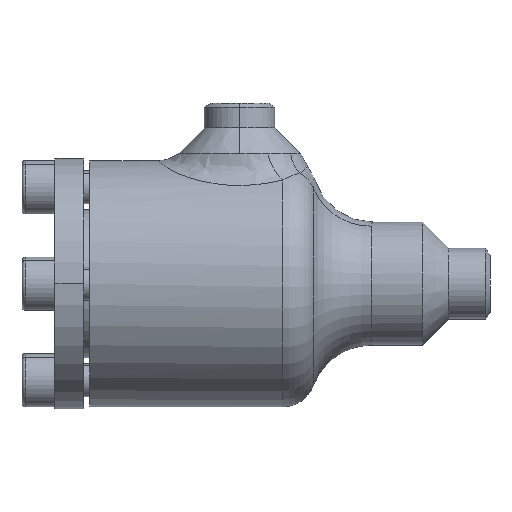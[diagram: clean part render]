
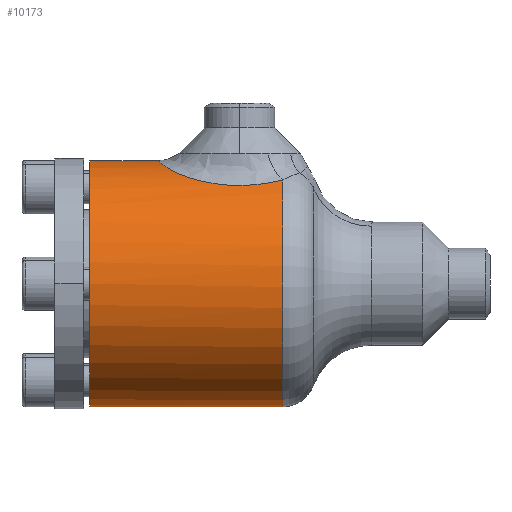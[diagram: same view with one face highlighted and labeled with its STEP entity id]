
A CAD part, left-side view. The second image highlights one B-rep face of the part: STEP entity #10173.
In plain terms, the highlighted cylindrical face has radius 30 mm (diameter 60 mm), a partial arc.
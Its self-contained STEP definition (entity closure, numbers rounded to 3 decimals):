
#252 = VERTEX_POINT ( 'NONE', #10040 ) ;
#281 = B_SPLINE_CURVE_WITH_KNOTS ( 'NONE', 3,
 ( #282, #283, #284, #285, #288, #289, #290, #291, #292, #293, #294, #295, #296, #297, #298, #299, #300, #301, #302, #303, #304, #305, #306, #307, #308, #309, #310, #311, #312, #313, #314, #315, #316, #317, #318, #319, #320, #321, #322, #323, #324, #325, #326, #327 ),
 .UNSPECIFIED., .F., .F.,
 ( 4, 2, 2, 2, 2, 2, 2, 2, 2, 2, 2, 2, 2, 2, 2, 2, 2, 2, 2, 2, 2, 4 ),
 ( 0., 0.003, 0.005, 0.007, 0.008, 0.011, 0.012, 0.013, 0.016, 0.018, 0.021, 0.024, 0.025, 0.026, 0.029, 0.03, 0.032, 0.034, 0.036, 0.037, 0.04, 0.042 ),
 .UNSPECIFIED. ) ;
#282 = CARTESIAN_POINT ( 'NONE',  ( -16.145, -47., 25.285 ) ) ;
#283 = CARTESIAN_POINT ( 'NONE',  ( -16.481, -46.204, 25.071 ) ) ;
#284 = CARTESIAN_POINT ( 'NONE',  ( -16.763, -45.389, 24.881 ) ) ;
#285 = CARTESIAN_POINT ( 'NONE',  ( -17.242, -43.726, 24.552 ) ) ;
#288 = CARTESIAN_POINT ( 'NONE',  ( -17.437, -42.877, 24.413 ) ) ;
#289 = CARTESIAN_POINT ( 'NONE',  ( -17.673, -41.581, 24.242 ) ) ;
#290 = CARTESIAN_POINT ( 'NONE',  ( -17.741, -41.144, 24.192 ) ) ;
#291 = CARTESIAN_POINT ( 'NONE',  ( -17.859, -40.271, 24.105 ) ) ;
#292 = CARTESIAN_POINT ( 'NONE',  ( -17.908, -39.833, 24.069 ) ) ;
#293 = CARTESIAN_POINT ( 'NONE',  ( -18.027, -38.518, 23.98 ) ) ;
#294 = CARTESIAN_POINT ( 'NONE',  ( -18.069, -37.639, 23.948 ) ) ;
#295 = CARTESIAN_POINT ( 'NONE',  ( -18.08, -36.316, 23.94 ) ) ;
#296 = CARTESIAN_POINT ( 'NONE',  ( -18.074, -35.875, 23.944 ) ) ;
#297 = CARTESIAN_POINT ( 'NONE',  ( -18.045, -34.99, 23.966 ) ) ;
#298 = CARTESIAN_POINT ( 'NONE',  ( -18.022, -34.546, 23.984 ) ) ;
#299 = CARTESIAN_POINT ( 'NONE',  ( -17.923, -33.223, 24.058 ) ) ;
#300 = CARTESIAN_POINT ( 'NONE',  ( -17.821, -32.35, 24.134 ) ) ;
#301 = CARTESIAN_POINT ( 'NONE',  ( -17.539, -30.622, 24.339 ) ) ;
#302 = CARTESIAN_POINT ( 'NONE',  ( -17.36, -29.767, 24.469 ) ) ;
#303 = CARTESIAN_POINT ( 'NONE',  ( -16.911, -28.077, 24.781 ) ) ;
#304 = CARTESIAN_POINT ( 'NONE',  ( -16.644, -27.252, 24.962 ) ) ;
#305 = CARTESIAN_POINT ( 'NONE',  ( -16.017, -25.658, 25.369 ) ) ;
#306 = CARTESIAN_POINT ( 'NONE',  ( -15.656, -24.886, 25.595 ) ) ;
#307 = CARTESIAN_POINT ( 'NONE',  ( -15.031, -23.772, 25.964 ) ) ;
#308 = CARTESIAN_POINT ( 'NONE',  ( -14.807, -23.407, 26.092 ) ) ;
#309 = CARTESIAN_POINT ( 'NONE',  ( -14.337, -22.705, 26.354 ) ) ;
#310 = CARTESIAN_POINT ( 'NONE',  ( -14.09, -22.367, 26.487 ) ) ;
#311 = CARTESIAN_POINT ( 'NONE',  ( -13.308, -21.389, 26.893 ) ) ;
#312 = CARTESIAN_POINT ( 'NONE',  ( -12.734, -20.788, 27.172 ) ) ;
#313 = CARTESIAN_POINT ( 'NONE',  ( -11.783, -19.968, 27.591 ) ) ;
#314 = CARTESIAN_POINT ( 'NONE',  ( -11.449, -19.707, 27.732 ) ) ;
#315 = CARTESIAN_POINT ( 'NONE',  ( -10.758, -19.22, 28.007 ) ) ;
#316 = CARTESIAN_POINT ( 'NONE',  ( -10.403, -18.995, 28.141 ) ) ;
#317 = CARTESIAN_POINT ( 'NONE',  ( -9.306, -18.374, 28.531 ) ) ;
#318 = CARTESIAN_POINT ( 'NONE',  ( -8.536, -18.031, 28.772 ) ) ;
#319 = CARTESIAN_POINT ( 'NONE',  ( -7.322, -17.613, 29.096 ) ) ;
#320 = CARTESIAN_POINT ( 'NONE',  ( -6.906, -17.489, 29.197 ) ) ;
#321 = CARTESIAN_POINT ( 'NONE',  ( -6.064, -17.275, 29.384 ) ) ;
#322 = CARTESIAN_POINT ( 'NONE',  ( -5.64, -17.184, 29.468 ) ) ;
#323 = CARTESIAN_POINT ( 'NONE',  ( -4.362, -16.953, 29.694 ) ) ;
#324 = CARTESIAN_POINT ( 'NONE',  ( -3.501, -16.853, 29.808 ) ) ;
#325 = CARTESIAN_POINT ( 'NONE',  ( -1.762, -16.728, 29.961 ) ) ;
#326 = CARTESIAN_POINT ( 'NONE',  ( -0.884, -16.7, 30. ) ) ;
#327 = CARTESIAN_POINT ( 'NONE',  ( 0., -16.7, 30. ) ) ;
#447 = CARTESIAN_POINT ( 'NONE',  ( 0., -16.7, 30. ) ) ;
#537 = LINE ( 'NONE', #538, #539 ) ;
#538 = CARTESIAN_POINT ( 'NONE',  ( 0., -55., -30. ) ) ;
#539 = VECTOR ( 'NONE', #540, 1000. ) ;
#540 = DIRECTION ( 'NONE',  ( 0., 1., 0. ) ) ;
#656 = LINE ( 'NONE', #657, #658 ) ;
#657 = CARTESIAN_POINT ( 'NONE',  ( 0., -55., 30. ) ) ;
#658 = VECTOR ( 'NONE', #659, 1000. ) ;
#659 = DIRECTION ( 'NONE',  ( 0., 1., 0. ) ) ;
#2644 = VERTEX_POINT ( 'NONE', #10514 ) ;
#3197 = VERTEX_POINT ( 'NONE', #447 ) ;
#3398 = EDGE_CURVE ( 'NONE', #3197, #2644, #656, .T. ) ;
#4052 = ORIENTED_EDGE ( 'NONE', *, *, #9043, .T. ) ;
#4868 = VERTEX_POINT ( 'NONE', #10587 ) ;
#5426 = EDGE_CURVE ( 'NONE', #4868, #9178, #537, .T. ) ;
#7019 = EDGE_CURVE ( 'NONE', #9178, #2644, #10588, .T. ) ;
#7287 = EDGE_CURVE ( 'NONE', #252, #3197, #281, .T. ) ;
#7587 = ORIENTED_EDGE ( 'NONE', *, *, #7287, .T. ) ;
#7656 = ORIENTED_EDGE ( 'NONE', *, *, #7019, .F. ) ;
#8058 = ORIENTED_EDGE ( 'NONE', *, *, #3398, .T. ) ;
#9040 = FACE_OUTER_BOUND ( 'NONE', #10017, .T. ) ;
#9041 = CYLINDRICAL_SURFACE ( 'NONE', #9044, 30. ) ;
#9043 = EDGE_CURVE ( 'NONE', #4868, #252, #10159, .T. ) ;
#9044 = AXIS2_PLACEMENT_3D ( 'NONE', #9045, #9046, #9047 ) ;
#9045 = CARTESIAN_POINT ( 'NONE',  ( 0., -55., 0. ) ) ;
#9046 = DIRECTION ( 'NONE',  ( 0., 1., 0. ) ) ;
#9047 = DIRECTION ( 'NONE',  ( 0., 0., 1. ) ) ;
#9178 = VERTEX_POINT ( 'NONE', #10593 ) ;
#10017 = EDGE_LOOP ( 'NONE', ( #11207, #4052, #7587, #8058, #7656 ) ) ;
#10040 = CARTESIAN_POINT ( 'NONE',  ( -16.145, -47., 25.285 ) ) ;
#10159 = CIRCLE ( 'NONE', #10160, 30. ) ;
#10160 = AXIS2_PLACEMENT_3D ( 'NONE', #10161, #10162, #10163 ) ;
#10161 = CARTESIAN_POINT ( 'NONE',  ( 0., -47., 0. ) ) ;
#10162 = DIRECTION ( 'NONE',  ( 0., 1., 0. ) ) ;
#10163 = DIRECTION ( 'NONE',  ( 0., 0., 1. ) ) ;
#10173 = ADVANCED_FACE ( 'NONE', ( #9040 ), #9041, .T. ) ;
#10514 = CARTESIAN_POINT ( 'NONE',  ( 0., 0., 30. ) ) ;
#10587 = CARTESIAN_POINT ( 'NONE',  ( 0., -47., -30. ) ) ;
#10588 = CIRCLE ( 'NONE', #10589, 30. ) ;
#10589 = AXIS2_PLACEMENT_3D ( 'NONE', #10590, #10591, #10592 ) ;
#10590 = CARTESIAN_POINT ( 'NONE',  ( 0., 0., 0. ) ) ;
#10591 = DIRECTION ( 'NONE',  ( 0., 1., 0. ) ) ;
#10592 = DIRECTION ( 'NONE',  ( 0., 0., 1. ) ) ;
#10593 = CARTESIAN_POINT ( 'NONE',  ( 0., 0., -30. ) ) ;
#11207 = ORIENTED_EDGE ( 'NONE', *, *, #5426, .F. ) ;
